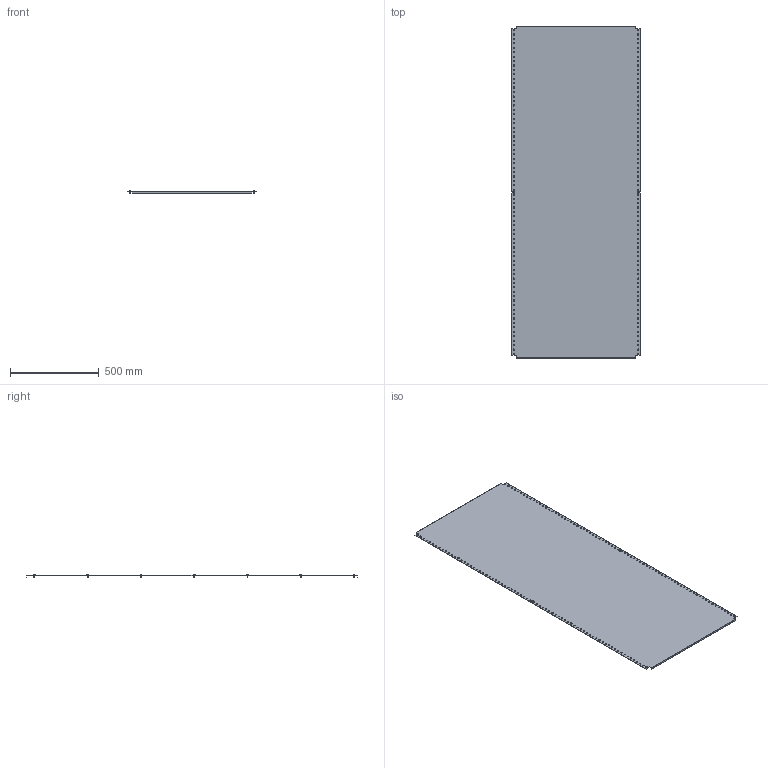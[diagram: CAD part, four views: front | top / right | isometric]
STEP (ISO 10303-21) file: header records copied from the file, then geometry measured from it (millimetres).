
FILE_DESCRIPTION (( 'STEP AP203' ), '1' );
FILE_NAME ('R6MP2080.STEP', '2025-03-28T12:12:58', ( '' ), ( '' ), 'SwSTEP 2.0', 'SolidWorks 2022', '' );
FILE_SCHEMA (( 'CONFIG_CONTROL_DESIGN' ));
Length unit declared in the file: millimetre
Products named in the file (3): R6MP2080; RB.3293.00.00.0_-28; M5x12 DIN 7500 C Torx Zinc_stright
Assembly tree (15 placements, depth 2):
  R6MP2080
    RB.3293.00.00.0_-28
    M5x12 DIN 7500 C Torx Zinc_stright  x14
Bounding box: 725 x 1870 x 15.56 mm (x, y, z)
Volume: 2453845.4 mm3; surface area: 2740840.7 mm2
Topology: 15 solids, 15 shells, 406 faces, 960 edges, 598 vertices
Faces by surface type: cylinder 180, plane 142, torus 28, cone 28, sphere 14, bspline 14
Full cylindrical faces by diameter (mm): 5 x14, 6.5 x148, 9.5 x14
Entity records: 7365 total; most frequent: CARTESIAN_POINT 1206, DIRECTION 1152, ORIENTED_EDGE 824, EDGE_LOOP 654, AXIS2_PLACEMENT_3D 532, EDGE_CURVE 412, VERTEX_POINT 374, FACE_OUTER_BOUND 352
